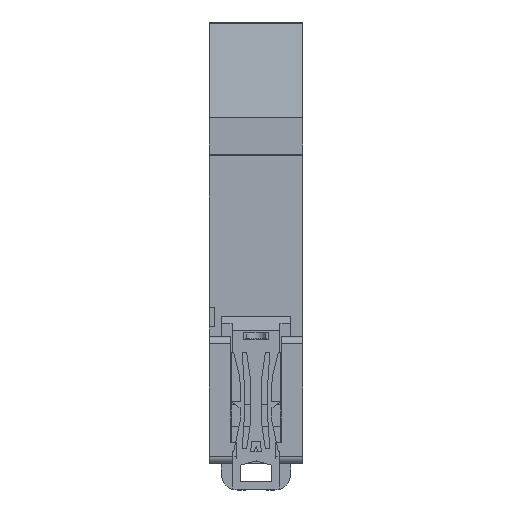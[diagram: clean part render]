
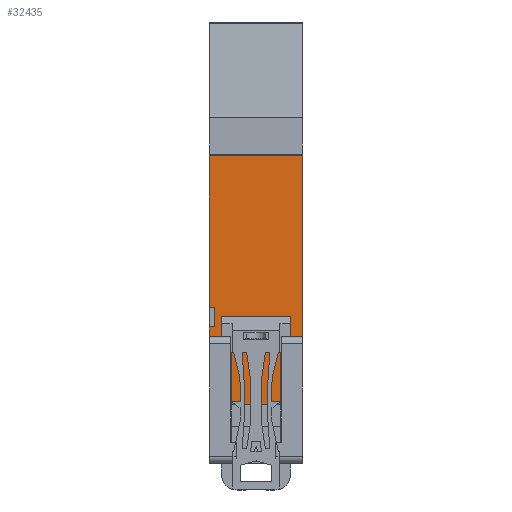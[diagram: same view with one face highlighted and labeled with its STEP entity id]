
A CAD part, top view. The second image highlights one B-rep face of the part: STEP entity #32435.
In plain terms, the highlighted planar face has unit normal (0, 0, 1).
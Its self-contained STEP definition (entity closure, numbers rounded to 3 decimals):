
#612 = EDGE_CURVE ( 'NONE', #40066, #20452, #35179, .T. ) ;
#614 = EDGE_CURVE ( 'NONE', #20545, #40489, #35180, .T. ) ;
#631 = EDGE_CURVE ( 'NONE', #20545, #40424, #35234, .T. ) ;
#674 = EDGE_CURVE ( 'NONE', #20674, #20503, #35370, .T. ) ;
#677 = EDGE_CURVE ( 'NONE', #40066, #20426, #35396, .T. ) ;
#1488 = PLANE ( 'NONE',  #11781 ) ;
#1503 = FACE_OUTER_BOUND ( 'NONE', #15087, .T. ) ;
#1512 = CARTESIAN_POINT ( 'NONE',  ( 17.5, 23.8, 0. ) ) ;
#1513 = DIRECTION ( 'NONE',  ( 0., 0., -1. ) ) ;
#1514 = DIRECTION ( 'NONE',  ( -1., 0., 0. ) ) ;
#9852 = CARTESIAN_POINT ( 'NONE',  ( 13.5, 11., 0. ) ) ;
#9864 = CARTESIAN_POINT ( 'NONE',  ( 1., 25.675, 0. ) ) ;
#11133 = CARTESIAN_POINT ( 'NONE',  ( 0., 29.325, 0. ) ) ;
#11164 = CARTESIAN_POINT ( 'NONE',  ( 4., 23.8, 0. ) ) ;
#11199 = CARTESIAN_POINT ( 'NONE',  ( 13.5, 23.8, 0. ) ) ;
#11522 = CARTESIAN_POINT ( 'NONE',  ( 17.5, 23.8, 0. ) ) ;
#11591 = CARTESIAN_POINT ( 'NONE',  ( 0., 59.35, 0. ) ) ;
#11639 = CARTESIAN_POINT ( 'NONE',  ( 0., 25.675, 0. ) ) ;
#11781 = AXIS2_PLACEMENT_3D ( 'NONE', #1512, #1513, #1514 ) ;
#15087 = EDGE_LOOP ( 'NONE', ( #15357, #15358, #15359, #15360, #15361, #15362, #15363, #15364, #15365, #15366, #15367, #15368 ) ) ;
#15357 = ORIENTED_EDGE ( 'NONE', *, *, #36152, .F. ) ;
#15358 = ORIENTED_EDGE ( 'NONE', *, *, #674, .F. ) ;
#15359 = ORIENTED_EDGE ( 'NONE', *, *, #36134, .T. ) ;
#15360 = ORIENTED_EDGE ( 'NONE', *, *, #36153, .T. ) ;
#15361 = ORIENTED_EDGE ( 'NONE', *, *, #677, .F. ) ;
#15362 = ORIENTED_EDGE ( 'NONE', *, *, #612, .T. ) ;
#15363 = ORIENTED_EDGE ( 'NONE', *, *, #36150, .T. ) ;
#15364 = ORIENTED_EDGE ( 'NONE', *, *, #36189, .T. ) ;
#15365 = ORIENTED_EDGE ( 'NONE', *, *, #36149, .F. ) ;
#15366 = ORIENTED_EDGE ( 'NONE', *, *, #631, .F. ) ;
#15367 = ORIENTED_EDGE ( 'NONE', *, *, #614, .T. ) ;
#15368 = ORIENTED_EDGE ( 'NONE', *, *, #36135, .T. ) ;
#20426 = VERTEX_POINT ( 'NONE', #29601 ) ;
#20452 = VERTEX_POINT ( 'NONE', #29616 ) ;
#20503 = VERTEX_POINT ( 'NONE', #29650 ) ;
#20545 = VERTEX_POINT ( 'NONE', #29677 ) ;
#20654 = VERTEX_POINT ( 'NONE', #9852 ) ;
#20674 = VERTEX_POINT ( 'NONE', #9864 ) ;
#20853 = VECTOR ( 'NONE', #22697, 1000. ) ;
#20856 = VECTOR ( 'NONE', #22699, 1000. ) ;
#20873 = VECTOR ( 'NONE', #22745, 1000. ) ;
#20875 = VECTOR ( 'NONE', #22743, 1000. ) ;
#20876 = VECTOR ( 'NONE', #22753, 1000. ) ;
#20878 = VECTOR ( 'NONE', #22751, 1000. ) ;
#20923 = VECTOR ( 'NONE', #22863, 1000. ) ;
#22684 = LINE ( 'NONE', #22698, #20856 ) ;
#22695 = LINE ( 'NONE', #22696, #20853 ) ;
#22696 = CARTESIAN_POINT ( 'NONE',  ( 1., 25.675, 0. ) ) ;
#22697 = DIRECTION ( 'NONE',  ( -1., 0., 0. ) ) ;
#22698 = CARTESIAN_POINT ( 'NONE',  ( 0., 23.8, 0. ) ) ;
#22699 = DIRECTION ( 'NONE',  ( 0., -1., 0. ) ) ;
#22734 = LINE ( 'NONE', #22752, #20876 ) ;
#22735 = LINE ( 'NONE', #22744, #20873 ) ;
#22741 = LINE ( 'NONE', #22742, #20875 ) ;
#22742 = CARTESIAN_POINT ( 'NONE',  ( 17.5, 23.8, 0. ) ) ;
#22743 = DIRECTION ( 'NONE',  ( -1., 0., 0. ) ) ;
#22744 = CARTESIAN_POINT ( 'NONE',  ( 17.5, 11., 0. ) ) ;
#22745 = DIRECTION ( 'NONE',  ( 1., 0., 0. ) ) ;
#22749 = LINE ( 'NONE', #22750, #20878 ) ;
#22750 = CARTESIAN_POINT ( 'NONE',  ( 1., 29.325, 0. ) ) ;
#22751 = DIRECTION ( 'NONE',  ( -1., 0., 0. ) ) ;
#22752 = CARTESIAN_POINT ( 'NONE',  ( 0., 23.8, 0. ) ) ;
#22753 = DIRECTION ( 'NONE',  ( 0., -1., 0. ) ) ;
#22852 = LINE ( 'NONE', #22853, #20923 ) ;
#22853 = CARTESIAN_POINT ( 'NONE',  ( 13.5, 23.8, 0. ) ) ;
#22863 = DIRECTION ( 'NONE',  ( 0., 1., 0. ) ) ;
#29601 = CARTESIAN_POINT ( 'NONE',  ( 0., 23.8, 0. ) ) ;
#29616 = CARTESIAN_POINT ( 'NONE',  ( 4., 11., 0. ) ) ;
#29650 = CARTESIAN_POINT ( 'NONE',  ( 1., 29.325, 0. ) ) ;
#29677 = CARTESIAN_POINT ( 'NONE',  ( 17.5, 59.35, 0. ) ) ;
#32435 = ADVANCED_FACE ( 'NONE', ( #1503 ), #1488, .F. ) ;
#35175 = CARTESIAN_POINT ( 'NONE',  ( 19.882, 59.35, 0. ) ) ;
#35179 = LINE ( 'NONE', #35181, #38322 ) ;
#35180 = LINE ( 'NONE', #35175, #38744 ) ;
#35181 = CARTESIAN_POINT ( 'NONE',  ( 4., 23.8, 0. ) ) ;
#35182 = DIRECTION ( 'NONE',  ( 0., -1., 0. ) ) ;
#35188 = DIRECTION ( 'NONE',  ( -1., 0., 0. ) ) ;
#35231 = CARTESIAN_POINT ( 'NONE',  ( 17.5, 23.8, 0. ) ) ;
#35234 = LINE ( 'NONE', #35231, #38689 ) ;
#35238 = DIRECTION ( 'NONE',  ( 0., -1., 0. ) ) ;
#35362 = CARTESIAN_POINT ( 'NONE',  ( 1., -41.026, 0. ) ) ;
#35370 = LINE ( 'NONE', #35362, #38382 ) ;
#35385 = DIRECTION ( 'NONE',  ( 0., 1., 0. ) ) ;
#35396 = LINE ( 'NONE', #35399, #38861 ) ;
#35399 = CARTESIAN_POINT ( 'NONE',  ( 17.5, 23.8, 0. ) ) ;
#35401 = DIRECTION ( 'NONE',  ( -1., 0., 0. ) ) ;
#36134 = EDGE_CURVE ( 'NONE', #20674, #40537, #22695, .T. ) ;
#36135 = EDGE_CURVE ( 'NONE', #40489, #40035, #22684, .T. ) ;
#36149 = EDGE_CURVE ( 'NONE', #40424, #40101, #22741, .T. ) ;
#36150 = EDGE_CURVE ( 'NONE', #20452, #20654, #22735, .T. ) ;
#36152 = EDGE_CURVE ( 'NONE', #20503, #40035, #22749, .T. ) ;
#36153 = EDGE_CURVE ( 'NONE', #40537, #20426, #22734, .T. ) ;
#36189 = EDGE_CURVE ( 'NONE', #20654, #40101, #22852, .T. ) ;
#38322 = VECTOR ( 'NONE', #35182, 1000. ) ;
#38382 = VECTOR ( 'NONE', #35385, 1000. ) ;
#38689 = VECTOR ( 'NONE', #35238, 1000. ) ;
#38744 = VECTOR ( 'NONE', #35188, 1000. ) ;
#38861 = VECTOR ( 'NONE', #35401, 1000. ) ;
#40035 = VERTEX_POINT ( 'NONE', #11133 ) ;
#40066 = VERTEX_POINT ( 'NONE', #11164 ) ;
#40101 = VERTEX_POINT ( 'NONE', #11199 ) ;
#40424 = VERTEX_POINT ( 'NONE', #11522 ) ;
#40489 = VERTEX_POINT ( 'NONE', #11591 ) ;
#40537 = VERTEX_POINT ( 'NONE', #11639 ) ;
